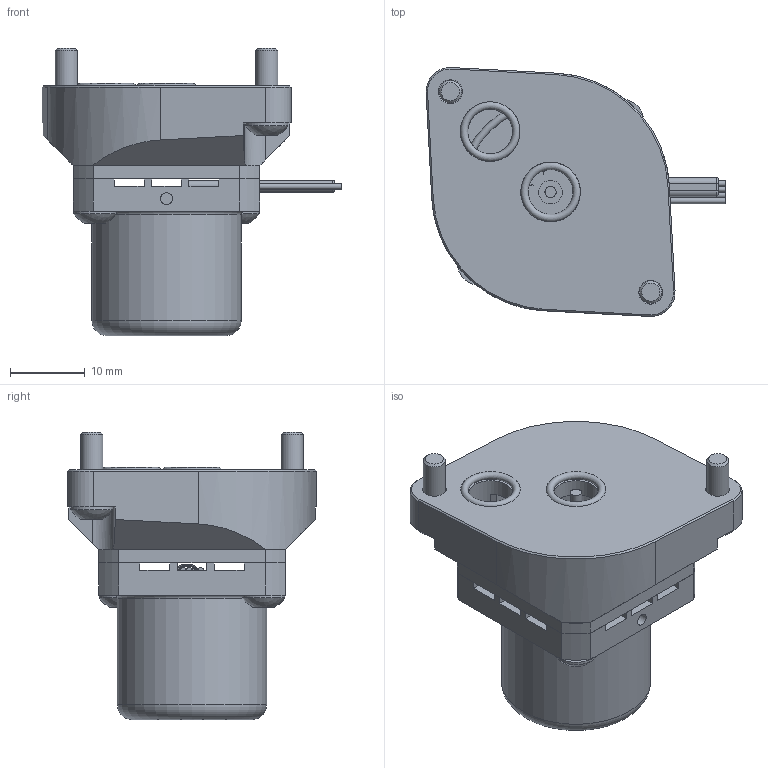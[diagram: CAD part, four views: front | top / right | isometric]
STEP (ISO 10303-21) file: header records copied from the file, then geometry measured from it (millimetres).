
FILE_DESCRIPTION (( 'STEP AP214' ), '1' );
FILE_NAME ('M400M REV 1.STEP', '2022-05-23T11:09:41', ( '' ), ( '' ), 'SwSTEP 2.0', 'SolidWorks 2021', '' );
FILE_SCHEMA (( 'AUTOMOTIVE_DESIGN' ));
Length unit declared in the file: millimetre
Products named in the file (1): M400M REV 1
Bounding box: 40.18 x 33.36 x 38.5 mm (x, y, z)
Surface area: 7831.2 mm2 (no closed solid volume)
Topology: 0 solids, 17 shells, 177 faces, 524 edges, 355 vertices
Faces by surface type: plane 115, cylinder 41, cone 10, torus 7, sphere 4
Full cylindrical faces by diameter (mm): 1.5 x1, 1.6 x1, 3 x2, 3.2 x2, 5.7 x4, 6 x2, 8 x2, 20 x1
Entity records: 7639 total; most frequent: CARTESIAN_POINT 1066, DIRECTION 984, ORIENTED_EDGE 805, EDGE_CURVE 490, VERTEX_POINT 347, LINE 334, VECTOR 334, AXIS2_PLACEMENT_3D 325
